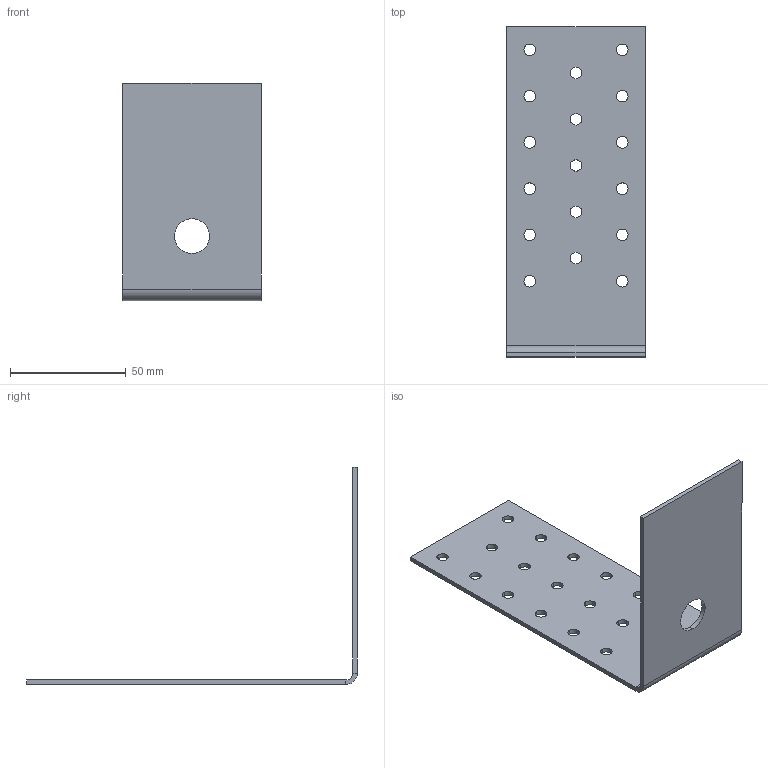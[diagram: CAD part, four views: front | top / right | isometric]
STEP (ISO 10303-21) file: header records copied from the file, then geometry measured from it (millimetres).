
FILE_DESCRIPTION (( 'STEP AP203' ), '1' );
FILE_NAME ('110310.STEP', '2020-01-20T09:14:31', ( '' ), ( '' ), 'SwSTEP 2.0', 'SolidWorks 2013', '' );
FILE_SCHEMA (( 'CONFIG_CONTROL_DESIGN' ));
Length unit declared in the file: millimetre
Products named in the file (1): 110310
Bounding box: 60 x 142.86 x 93.86 mm (x, y, z)
Volume: 26939 mm3; surface area: 28739.3 mm2
Topology: 1 solids, 1 shells, 50 faces, 136 edges, 88 vertices
Faces by surface type: cylinder 38, plane 12
Entity records: 1761 total; most frequent: DIRECTION 314, CARTESIAN_POINT 275, ORIENTED_EDGE 272, EDGE_CURVE 136, AXIS2_PLACEMENT_3D 127, VERTEX_POINT 88, EDGE_LOOP 86, CIRCLE 76
